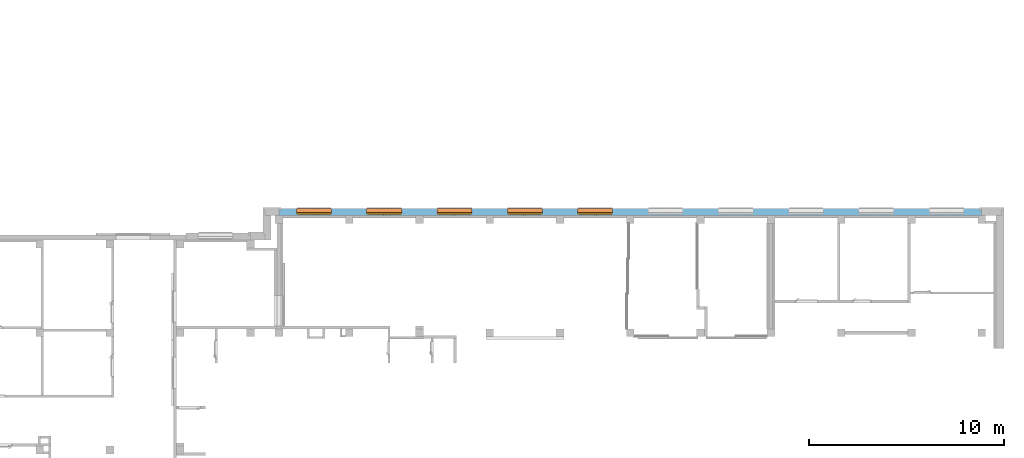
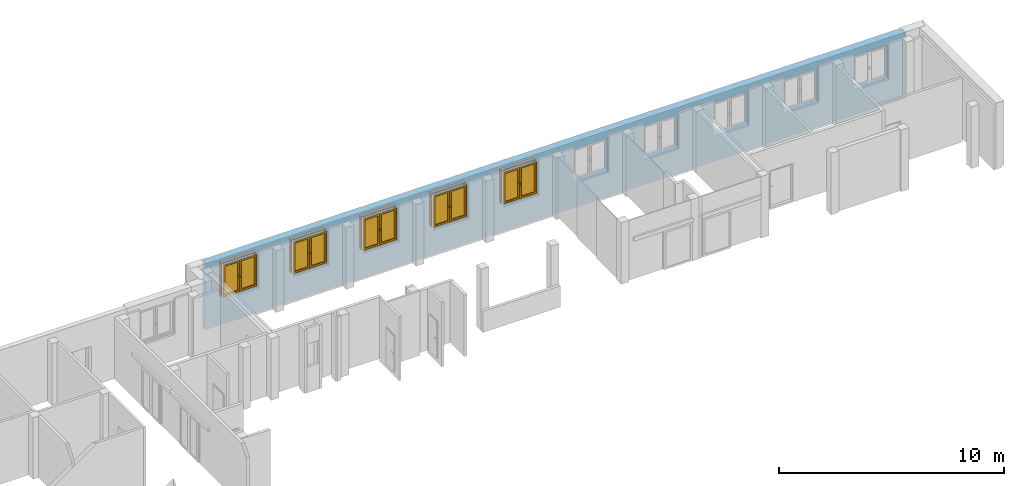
# One storey, part 24 of 37: 5 proxies, 5 windows, 10 openings, plus 1 element that does not belong to this part.
"""IFC4 building model written with IfcOpenShell, lengths in metres."""

from ifc_helpers import new_model, entity, si_unit, converted_unit, derived_unit, frame, origin, origin_with_axes, place, context, subcontext, project, spatial, polyline, outline, extrude, clip, bounded_halfspace, closed_shell, open_shell, faceted_brep, surface_model, source, transform, mapped, material, layer, layer_set, layer_usage, element, fill, save


model = new_model("IFC4")

# Units and contexts
model_context = context("Model", 3, precision=1e-05, world=origin())
body_context = subcontext(model_context, "Body", "Model", "MODEL_VIEW")
ifc_project = project(units=[si_unit("LENGTHUNIT", "METRE"), si_unit("AREAUNIT", "SQUARE_METRE"), si_unit("VOLUMEUNIT", "CUBIC_METRE"), si_unit("MASSUNIT", "GRAM", prefix="KILO"), converted_unit("PLANEANGLEUNIT", "DEGREE", entity("IfcPlaneAngleMeasure", 0.0174532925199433), si_unit("PLANEANGLEUNIT", "RADIAN"), dimensions=[0, 0, 0, 0, 0, 0, 0]), derived_unit("THERMALTRANSMITTANCEUNIT", [(si_unit("POWERUNIT", "WATT"), 1), (si_unit("THERMODYNAMICTEMPERATUREUNIT", "KELVIN"), -1), (si_unit("LENGTHUNIT", "METRE"), -2)]), derived_unit("VOLUMETRICFLOWRATEUNIT", [(si_unit("LENGTHUNIT", "METRE"), 3), (converted_unit("TIMEUNIT", "hour", entity("IfcTimeMeasure", 3600.0), si_unit("TIMEUNIT", "SECOND"), dimensions=[0, 0, 1, 0, 0, 0, 0]), -1), (si_unit("LENGTHUNIT", "METRE"), -1)])], contexts=[model_context])

# Site, building, storey
site_placement = place(None, origin())
site = spatial("IfcSite", under=ifc_project, at=site_placement, Name="3. ASŘ", CompositionType="ELEMENT")
building_placement = place(site_placement, origin())
building = spatial("IfcBuilding", under=site, at=building_placement, Name="Pavilon B", CompositionType="ELEMENT")
storey_placement = place(building_placement, origin())
storey = spatial("IfcBuildingStorey", under=building, at=storey_placement, Name="Půdorys 1.NP", CompositionType="ELEMENT", Elevation=0.0)

# Wall, openings, windows, proxies
ifc_material_1 = material(Name="ZELEZOBETONOVÁ KCE")
ifc_layer_1 = layer(ifc_material_1, 0.250000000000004)
ifc_material_2 = material(Name="MINERÁLNÍ VATA")
ifc_layer_2 = layer(ifc_material_2, 0.119999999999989)
ifc_layer_set = layer_set([ifc_layer_1, ifc_layer_2])
ifc_layer_usage = layer_usage(ifc_layer_set, "AXIS2", "POSITIVE", 0.0)
wall_placement = place(storey_placement, frame((49.1, -15.6, -0.1), z_axis=(0.0, 0.0, 1.0), x_axis=(1.0, 1.01054966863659e-16, 0.0)))
wall = element("IfcWall", 1, at=wall_placement, inside=storey, material=ifc_layer_usage, Name="ZELEZOBETONOVÁ KCE", context=body_context, shape_type="Clipping", body=[
    clip(extrude(outline(polyline([(0.0, 0.0), (36.0, 0.0), (36.0, 0.25), (35.88, 0.25), (35.88, 0.37), (0.12, 0.37), (0.12, 0.25), (2.52637417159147e-17, 0.25), (0.0, 0.0)])), origin_with_axes(), (0.0, 0.0, 1.0), 3.6), bounded_halfspace(frame((18.0, 0.31, 0.1), z_axis=(0.0, 0.0, 1.0), x_axis=(-1.01054966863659e-16, -1.0, 0.0)), True, origin_with_axes(), polyline([(0.12, 0.37), (0.12, 0.25), (35.88, 0.25), (35.88, 0.37), (0.12, 0.37)]))),
])
opening_1_placement = place(wall_placement, frame((27.9, 0.369999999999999, 1.4), z_axis=(0.0, -1.0, 0.0), x_axis=(0.0, 0.0, 1.0)))
element("IfcOpeningElement", 2, at=opening_1_placement, cuts=wall, Name="Okenní otvor", ObjectType="Opening", context=body_context, shape_type="SweptSolid", body=[
    extrude(outline(polyline([(0.0, 1.8), (1.8, 1.8), (1.8, 0.0), (0.0, 0.0), (0.0, 1.8)])), origin_with_axes(), (0.0, 0.0, 1.0), 0.12),
    extrude(outline(polyline([(0.0, 1.8), (1.8, 1.8), (1.8, 0.0), (0.0, 0.0), (0.0, 1.8)])), frame((0.0, 0.0, 0.12), z_axis=(0.0, 0.0, 1.0), x_axis=(1.0, 0.0, 0.0)), (0.0, 0.0, 1.0), 0.25),
])
opening_2_placement = place(wall_placement, frame((31.5, 0.369999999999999, 1.4), z_axis=(0.0, -1.0, 0.0), x_axis=(0.0, 0.0, 1.0)))
element("IfcOpeningElement", 3, at=opening_2_placement, cuts=wall, Name="Okenní otvor", ObjectType="Opening", context=body_context, shape_type="SweptSolid", body=[
    extrude(outline(polyline([(0.0, 1.8), (1.8, 1.8), (1.8, 0.0), (0.0, 0.0), (0.0, 1.8)])), origin_with_axes(), (0.0, 0.0, 1.0), 0.12),
    extrude(outline(polyline([(0.0, 1.8), (1.8, 1.8), (1.8, 0.0), (0.0, 0.0), (0.0, 1.8)])), frame((0.0, 0.0, 0.12), z_axis=(0.0, 0.0, 1.0), x_axis=(1.0, 0.0, 0.0)), (0.0, 0.0, 1.0), 0.25),
])
opening_3_placement = place(wall_placement, frame((35.1, 0.37, 1.4), z_axis=(0.0, -1.0, 0.0), x_axis=(0.0, 0.0, 1.0)))
element("IfcOpeningElement", 4, at=opening_3_placement, cuts=wall, Name="Okenní otvor", ObjectType="Opening", context=body_context, shape_type="SweptSolid", body=[
    extrude(outline(polyline([(0.0, 1.8), (1.8, 1.8), (1.8, 0.0), (0.0, 0.0), (0.0, 1.8)])), origin_with_axes(), (0.0, 0.0, 1.0), 0.12),
    extrude(outline(polyline([(0.0, 1.8), (1.8, 1.8), (1.8, 0.0), (0.0, 0.0), (0.0, 1.8)])), frame((0.0, 0.0, 0.12), z_axis=(0.0, 0.0, 1.0), x_axis=(1.0, 0.0, 0.0)), (0.0, 0.0, 1.0), 0.25),
])
opening_4_placement = place(wall_placement, frame((24.3, 0.369999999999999, 1.4), z_axis=(0.0, -1.0, 0.0), x_axis=(0.0, 0.0, 1.0)))
element("IfcOpeningElement", 5, at=opening_4_placement, cuts=wall, Name="Okenní otvor", ObjectType="Opening", context=body_context, shape_type="SweptSolid", body=[
    extrude(outline(polyline([(0.0, 1.8), (1.8, 1.8), (1.8, 0.0), (0.0, 0.0), (0.0, 1.8)])), origin_with_axes(), (0.0, 0.0, 1.0), 0.12),
    extrude(outline(polyline([(0.0, 1.8), (1.8, 1.8), (1.8, 0.0), (0.0, 0.0), (0.0, 1.8)])), frame((0.0, 0.0, 0.12), z_axis=(0.0, 0.0, 1.0), x_axis=(1.0, 0.0, 0.0)), (0.0, 0.0, 1.0), 0.25),
])
opening_5_placement = place(wall_placement, frame((20.7, 0.37, 1.4), z_axis=(0.0, -1.0, 0.0), x_axis=(0.0, 0.0, 1.0)))
element("IfcOpeningElement", 6, at=opening_5_placement, cuts=wall, Name="Okenní otvor", ObjectType="Opening", context=body_context, shape_type="SweptSolid", body=[
    extrude(outline(polyline([(0.0, 1.8), (1.8, 1.8), (1.8, 0.0), (0.0, 0.0), (0.0, 1.8)])), origin_with_axes(), (0.0, 0.0, 1.0), 0.12),
    extrude(outline(polyline([(0.0, 1.8), (1.8, 1.8), (1.8, 0.0), (0.0, 0.0), (0.0, 1.8)])), frame((0.0, 0.0, 0.12), z_axis=(0.0, 0.0, 1.0), x_axis=(1.0, 0.0, 0.0)), (0.0, 0.0, 1.0), 0.25),
])
opening_6_placement = place(wall_placement, frame((17.1, 0.37, 1.4), z_axis=(0.0, -1.0, 0.0), x_axis=(0.0, 0.0, 1.0)))
opening_6 = element("IfcOpeningElement", 7, at=opening_6_placement, cuts=wall, Name="Okenní otvor", ObjectType="Opening", context=body_context, shape_type="SweptSolid", body=[
    extrude(outline(polyline([(0.0, 1.8), (1.8, 1.8), (1.8, 0.0), (0.0, 0.0), (0.0, 1.8)])), origin_with_axes(), (0.0, 0.0, 1.0), 0.12),
    extrude(outline(polyline([(0.0, 1.8), (1.8, 1.8), (1.8, 0.0), (0.0, 0.0), (0.0, 1.8)])), frame((0.0, 0.0, 0.12), z_axis=(0.0, 0.0, 1.0), x_axis=(1.0, 0.0, 0.0)), (0.0, 0.0, 1.0), 0.25),
])
opening_7_placement = place(wall_placement, frame((13.5, 0.369999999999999, 1.4), z_axis=(0.0, -1.0, 0.0), x_axis=(0.0, 0.0, 1.0)))
opening_7 = element("IfcOpeningElement", 8, at=opening_7_placement, cuts=wall, Name="Okenní otvor", ObjectType="Opening", context=body_context, shape_type="SweptSolid", body=[
    extrude(outline(polyline([(0.0, 1.8), (1.8, 1.8), (1.8, 0.0), (0.0, 0.0), (0.0, 1.8)])), origin_with_axes(), (0.0, 0.0, 1.0), 0.12),
    extrude(outline(polyline([(0.0, 1.8), (1.8, 1.8), (1.8, 0.0), (0.0, 0.0), (0.0, 1.8)])), frame((0.0, 0.0, 0.12), z_axis=(0.0, 0.0, 1.0), x_axis=(1.0, 0.0, 0.0)), (0.0, 0.0, 1.0), 0.25),
])
opening_8_placement = place(wall_placement, frame((9.9, 0.369999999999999, 1.4), z_axis=(0.0, -1.0, 0.0), x_axis=(0.0, 0.0, 1.0)))
opening_8 = element("IfcOpeningElement", 9, at=opening_8_placement, cuts=wall, Name="Okenní otvor", ObjectType="Opening", context=body_context, shape_type="SweptSolid", body=[
    extrude(outline(polyline([(0.0, 1.8), (1.8, 1.8), (1.8, 0.0), (0.0, 0.0), (0.0, 1.8)])), origin_with_axes(), (0.0, 0.0, 1.0), 0.12),
    extrude(outline(polyline([(0.0, 1.8), (1.8, 1.8), (1.8, 0.0), (0.0, 0.0), (0.0, 1.8)])), frame((0.0, 0.0, 0.12), z_axis=(0.0, 0.0, 1.0), x_axis=(1.0, 0.0, 0.0)), (0.0, 0.0, 1.0), 0.25),
])
opening_9_placement = place(wall_placement, frame((6.3, 0.369999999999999, 1.4), z_axis=(0.0, -1.0, 0.0), x_axis=(0.0, 0.0, 1.0)))
opening_9 = element("IfcOpeningElement", 10, at=opening_9_placement, cuts=wall, Name="Okenní otvor", ObjectType="Opening", context=body_context, shape_type="SweptSolid", body=[
    extrude(outline(polyline([(0.0, 1.8), (1.8, 1.8), (1.8, 0.0), (0.0, 0.0), (0.0, 1.8)])), origin_with_axes(), (0.0, 0.0, 1.0), 0.12),
    extrude(outline(polyline([(0.0, 1.8), (1.8, 1.8), (1.8, 0.0), (0.0, 0.0), (0.0, 1.8)])), frame((0.0, 0.0, 0.12), z_axis=(0.0, 0.0, 1.0), x_axis=(1.0, 0.0, 0.0)), (0.0, 0.0, 1.0), 0.25),
])
opening_10_placement = place(wall_placement, frame((2.7, 0.37, 1.4), z_axis=(0.0, -1.0, 0.0), x_axis=(0.0, 0.0, 1.0)))
opening_10 = element("IfcOpeningElement", 11, at=opening_10_placement, cuts=wall, Name="Okenní otvor", ObjectType="Opening", context=body_context, shape_type="SweptSolid", body=[
    extrude(outline(polyline([(0.0, 1.8), (1.8, 1.8), (1.8, 0.0), (0.0, 0.0), (0.0, 1.8)])), origin_with_axes(), (0.0, 0.0, 1.0), 0.12),
    extrude(outline(polyline([(0.0, 1.8), (1.8, 1.8), (1.8, 0.0), (0.0, 0.0), (0.0, 1.8)])), frame((0.0, 0.0, 0.12), z_axis=(0.0, 0.0, 1.0), x_axis=(1.0, 0.0, 0.0)), (0.0, 0.0, 1.0), 0.25),
])
shared_shape = source(origin_with_axes(), body_context, "Body", "SurfaceModel", [
    surface_model("IfcShellBasedSurfaceModel", [(0.0, 0.182, 1.8), (0.0, 0.182, -5.63337527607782e-18), (0.08, 0.182, -5.63337527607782e-18), (0.08, 0.182, 1.8), (0.0, 0.0899999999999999, 5.63337527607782e-18), (0.0, 0.0900000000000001, 1.8), (0.08, 0.0900000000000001, 1.8), (0.08, 0.0899999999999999, 5.63337527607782e-18)], [closed_shell([[[0, 1, 2, 3]], [[4, 5, 6, 7]], [[1, 0, 5, 4]], [[2, 1, 4, 7]], [[3, 2, 7, 6]], [[0, 3, 6, 5]]], orient=[[False], [False], [False], [False], [False], [False]])]),
    surface_model("IfcShellBasedSurfaceModel", [(1.72, 0.182, 1.8), (1.72, 0.182, -5.63337527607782e-18), (1.8, 0.182, -5.63337527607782e-18), (1.8, 0.182, 1.8), (1.72, 0.0899999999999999, 5.63337527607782e-18), (1.72, 0.0900000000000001, 1.8), (1.8, 0.0900000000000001, 1.8), (1.8, 0.0899999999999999, 5.63337527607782e-18)], [closed_shell([[[0, 1, 2, 3]], [[4, 5, 6, 7]], [[1, 0, 5, 4]], [[2, 1, 4, 7]], [[3, 2, 7, 6]], [[0, 3, 6, 5]]], orient=[[False], [False], [False], [False], [False], [False]])]),
    surface_model("IfcShellBasedSurfaceModel", [(0.08, 0.182, 0.08), (0.08, 0.182, -5.63337527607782e-18), (1.72, 0.182, -5.63337527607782e-18), (1.72, 0.182, 0.08), (0.08, 0.0899999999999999, 5.63337527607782e-18), (0.08, 0.0899999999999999, 0.08), (1.72, 0.0899999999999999, 0.08), (1.72, 0.0899999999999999, 5.63337527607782e-18)], [closed_shell([[[0, 1, 2, 3]], [[4, 5, 6, 7]], [[1, 0, 5, 4]], [[2, 1, 4, 7]], [[3, 2, 7, 6]], [[0, 3, 6, 5]]], orient=[[False], [False], [False], [False], [False], [False]])]),
    surface_model("IfcShellBasedSurfaceModel", [(0.08, 0.182, 1.8), (0.08, 0.182, 1.72), (1.72, 0.182, 1.72), (1.72, 0.182, 1.8), (0.08, 0.0900000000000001, 1.72), (0.08, 0.0900000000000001, 1.8), (1.72, 0.0900000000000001, 1.8), (1.72, 0.0900000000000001, 1.72)], [closed_shell([[[0, 1, 2, 3]], [[4, 5, 6, 7]], [[1, 0, 5, 4]], [[2, 1, 4, 7]], [[3, 2, 7, 6]], [[0, 3, 6, 5]]], orient=[[False], [False], [False], [False], [False], [False]])]),
    surface_model("IfcShellBasedSurfaceModel", [(0.86, 0.182, 1.72), (0.86, 0.182, 0.08), (0.94, 0.182, 0.08), (0.94, 0.182, 1.72), (0.86, 0.0899999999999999, 0.08), (0.86, 0.0900000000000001, 1.72), (0.94, 0.0900000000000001, 1.72), (0.94, 0.0899999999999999, 0.08)], [closed_shell([[[0, 1, 2, 3]], [[4, 5, 6, 7]], [[1, 0, 5, 4]], [[2, 1, 4, 7]], [[3, 2, 7, 6]], [[0, 3, 6, 5]]], orient=[[False], [False], [False], [False], [False], [False]])]),
    surface_model("IfcShellBasedSurfaceModel", [(0.05, 0.145, 1.75), (0.05, 0.145, 0.05), (0.13, 0.145, 0.05), (0.13, 0.145, 1.75), (0.05, 0.0599999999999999, 0.05), (0.05, 0.0600000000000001, 1.75), (0.13, 0.0600000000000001, 1.75), (0.13, 0.0599999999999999, 0.05)], [closed_shell([[[0, 1, 2, 3]], [[4, 5, 6, 7]], [[1, 0, 5, 4]], [[2, 1, 4, 7]], [[3, 2, 7, 6]], [[0, 3, 6, 5]]], orient=[[False], [False], [False], [False], [False], [False]])]),
    surface_model("IfcShellBasedSurfaceModel", [(0.81, 0.145, 1.75), (0.81, 0.145, 0.05), (0.89, 0.145, 0.05), (0.89, 0.145, 1.75), (0.81, 0.0599999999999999, 0.05), (0.81, 0.0600000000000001, 1.75), (0.89, 0.0600000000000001, 1.75), (0.89, 0.0599999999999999, 0.05)], [closed_shell([[[0, 1, 2, 3]], [[4, 5, 6, 7]], [[1, 0, 5, 4]], [[2, 1, 4, 7]], [[3, 2, 7, 6]], [[0, 3, 6, 5]]], orient=[[False], [False], [False], [False], [False], [False]])]),
    surface_model("IfcShellBasedSurfaceModel", [(0.13, 0.145, 0.13), (0.13, 0.145, 0.05), (0.81, 0.145, 0.05), (0.81, 0.145, 0.13), (0.13, 0.0599999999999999, 0.05), (0.13, 0.0599999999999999, 0.13), (0.81, 0.0599999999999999, 0.13), (0.81, 0.0599999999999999, 0.05)], [closed_shell([[[0, 1, 2, 3]], [[4, 5, 6, 7]], [[1, 0, 5, 4]], [[2, 1, 4, 7]], [[3, 2, 7, 6]], [[0, 3, 6, 5]]], orient=[[False], [False], [False], [False], [False], [False]])]),
    surface_model("IfcShellBasedSurfaceModel", [(0.13, 0.145, 1.75), (0.13, 0.145, 1.67), (0.81, 0.145, 1.67), (0.81, 0.145, 1.75), (0.13, 0.0600000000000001, 1.67), (0.13, 0.0600000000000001, 1.75), (0.81, 0.0600000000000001, 1.75), (0.81, 0.0600000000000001, 1.67)], [closed_shell([[[0, 1, 2, 3]], [[4, 5, 6, 7]], [[1, 0, 5, 4]], [[2, 1, 4, 7]], [[3, 2, 7, 6]], [[0, 3, 6, 5]]], orient=[[False], [False], [False], [False], [False], [False]])]),
    surface_model("IfcShellBasedSurfaceModel", [(0.8375, 0.06, 0.92), (0.8375, 0.06, 0.88), (0.8625, 0.06, 0.88), (0.8625, 0.06, 0.92), (0.8375, 0.05, 0.88), (0.8375, 0.05, 0.92), (0.8625, 0.05, 0.92), (0.8625, 0.05, 0.88)], [closed_shell([[[0, 1, 2, 3]], [[4, 5, 6, 7]], [[1, 0, 5, 4]], [[2, 1, 4, 7]], [[3, 2, 7, 6]], [[0, 3, 6, 5]]], orient=[[False], [False], [False], [False], [False], [False]])]),
    surface_model("IfcShellBasedSurfaceModel", [(0.86, 0.05, 0.9), (0.858660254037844, 0.05, 0.905), (0.855, 0.05, 0.908660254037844), (0.85, 0.05, 0.91), (0.845, 0.05, 0.908660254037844), (0.841339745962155, 0.05, 0.905), (0.84, 0.05, 0.9), (0.841339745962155, 0.05, 0.895), (0.845, 0.05, 0.891339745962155), (0.85, 0.05, 0.89), (0.855, 0.05, 0.891339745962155), (0.858660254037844, 0.05, 0.895), (0.86, 0.01, 0.9), (0.858660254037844, 0.00500000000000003, 0.905), (0.855, 0.00133974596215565, 0.908660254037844), (0.85, 2.8421709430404e-17, 0.91), (0.845, 0.00133974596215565, 0.908660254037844), (0.841339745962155, 0.00500000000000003, 0.905), (0.84, 0.01, 0.9), (0.841339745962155, 0.015, 0.895), (0.845, 0.0186602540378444, 0.891339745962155), (0.85, 0.02, 0.89), (0.855, 0.0186602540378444, 0.891339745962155), (0.858660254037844, 0.015, 0.895), (0.86, 0.01, 0.785), (0.858660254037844, 0.005, 0.785), (0.855, 0.00133974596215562, 0.785), (0.85, 0.0, 0.785), (0.845, 0.00133974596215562, 0.785), (0.841339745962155, 0.005, 0.785), (0.84, 0.01, 0.785), (0.841339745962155, 0.015, 0.785), (0.845, 0.0186602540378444, 0.785), (0.85, 0.02, 0.785), (0.855, 0.0186602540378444, 0.785), (0.858660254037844, 0.015, 0.785)], [open_shell([[[0, 1, 2, 3, 4, 5, 6, 7, 8, 9, 10, 11]], [[0, 12, 13, 1]], [[1, 13, 14, 2]], [[2, 14, 15, 3]], [[3, 15, 16, 4]], [[4, 16, 17, 5]], [[5, 17, 18, 6]], [[6, 18, 19, 7]], [[7, 19, 20, 8]], [[8, 20, 21, 9]], [[9, 21, 22, 10]], [[10, 22, 23, 11]], [[11, 23, 12, 0]], [[12, 24, 25, 13]], [[13, 25, 26, 14]], [[14, 26, 27, 15]], [[15, 27, 28, 16]], [[16, 28, 29, 17]], [[17, 29, 30, 18]], [[18, 30, 31, 19]], [[19, 31, 32, 20]], [[20, 32, 33, 21]], [[21, 33, 34, 22]], [[22, 34, 35, 23]], [[23, 35, 24, 12]]], orient=[[False], [False], [False], [False], [False], [False], [False], [False], [False], [False], [False], [False], [False], [False], [False], [False], [False], [False], [False], [False], [False], [False], [False], [False], [False]])]),
    surface_model("IfcShellBasedSurfaceModel", [(0.91, 0.145, 1.75), (0.91, 0.145, 0.05), (0.99, 0.145, 0.05), (0.99, 0.145, 1.75), (0.91, 0.0599999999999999, 0.05), (0.91, 0.0600000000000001, 1.75), (0.99, 0.0600000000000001, 1.75), (0.99, 0.0599999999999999, 0.05)], [closed_shell([[[0, 1, 2, 3]], [[4, 5, 6, 7]], [[1, 0, 5, 4]], [[2, 1, 4, 7]], [[3, 2, 7, 6]], [[0, 3, 6, 5]]], orient=[[False], [False], [False], [False], [False], [False]])]),
    surface_model("IfcShellBasedSurfaceModel", [(1.67, 0.145, 1.75), (1.67, 0.145, 0.05), (1.75, 0.145, 0.05), (1.75, 0.145, 1.75), (1.67, 0.0599999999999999, 0.05), (1.67, 0.0600000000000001, 1.75), (1.75, 0.0600000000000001, 1.75), (1.75, 0.0599999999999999, 0.05)], [closed_shell([[[0, 1, 2, 3]], [[4, 5, 6, 7]], [[1, 0, 5, 4]], [[2, 1, 4, 7]], [[3, 2, 7, 6]], [[0, 3, 6, 5]]], orient=[[False], [False], [False], [False], [False], [False]])]),
    surface_model("IfcShellBasedSurfaceModel", [(0.99, 0.145, 0.13), (0.99, 0.145, 0.05), (1.67, 0.145, 0.05), (1.67, 0.145, 0.13), (0.99, 0.0599999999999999, 0.05), (0.99, 0.0599999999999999, 0.13), (1.67, 0.0599999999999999, 0.13), (1.67, 0.0599999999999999, 0.05)], [closed_shell([[[0, 1, 2, 3]], [[4, 5, 6, 7]], [[1, 0, 5, 4]], [[2, 1, 4, 7]], [[3, 2, 7, 6]], [[0, 3, 6, 5]]], orient=[[False], [False], [False], [False], [False], [False]])]),
    surface_model("IfcShellBasedSurfaceModel", [(0.99, 0.145, 1.75), (0.99, 0.145, 1.67), (1.67, 0.145, 1.67), (1.67, 0.145, 1.75), (0.99, 0.0600000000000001, 1.67), (0.99, 0.0600000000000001, 1.75), (1.67, 0.0600000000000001, 1.75), (1.67, 0.0600000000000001, 1.67)], [closed_shell([[[0, 1, 2, 3]], [[4, 5, 6, 7]], [[1, 0, 5, 4]], [[2, 1, 4, 7]], [[3, 2, 7, 6]], [[0, 3, 6, 5]]], orient=[[False], [False], [False], [False], [False], [False]])]),
    surface_model("IfcShellBasedSurfaceModel", [(0.9375, 0.06, 0.92), (0.9375, 0.06, 0.88), (0.9625, 0.06, 0.88), (0.9625, 0.06, 0.92), (0.9375, 0.05, 0.88), (0.9375, 0.05, 0.92), (0.9625, 0.05, 0.92), (0.9625, 0.05, 0.88)], [closed_shell([[[0, 1, 2, 3]], [[4, 5, 6, 7]], [[1, 0, 5, 4]], [[2, 1, 4, 7]], [[3, 2, 7, 6]], [[0, 3, 6, 5]]], orient=[[False], [False], [False], [False], [False], [False]])]),
    surface_model("IfcShellBasedSurfaceModel", [(0.96, 0.05, 0.9), (0.958660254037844, 0.05, 0.905), (0.955, 0.05, 0.908660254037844), (0.95, 0.05, 0.91), (0.945, 0.05, 0.908660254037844), (0.941339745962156, 0.05, 0.905), (0.94, 0.05, 0.9), (0.941339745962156, 0.05, 0.895), (0.945, 0.05, 0.891339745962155), (0.95, 0.05, 0.89), (0.955, 0.05, 0.891339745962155), (0.958660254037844, 0.05, 0.895), (0.96, 0.01, 0.9), (0.958660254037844, 0.00500000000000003, 0.905), (0.955, 0.00133974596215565, 0.908660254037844), (0.95, 2.8421709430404e-17, 0.91), (0.945, 0.00133974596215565, 0.908660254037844), (0.941339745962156, 0.00500000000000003, 0.905), (0.94, 0.01, 0.9), (0.941339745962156, 0.015, 0.895), (0.945, 0.0186602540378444, 0.891339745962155), (0.95, 0.02, 0.89), (0.955, 0.0186602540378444, 0.891339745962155), (0.958660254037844, 0.015, 0.895), (0.96, 0.01, 0.785), (0.958660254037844, 0.005, 0.785), (0.955, 0.00133974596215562, 0.785), (0.95, 0.0, 0.785), (0.945, 0.00133974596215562, 0.785), (0.941339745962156, 0.005, 0.785), (0.94, 0.01, 0.785), (0.941339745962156, 0.015, 0.785), (0.945, 0.0186602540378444, 0.785), (0.95, 0.02, 0.785), (0.955, 0.0186602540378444, 0.785), (0.958660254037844, 0.015, 0.785)], [open_shell([[[0, 1, 2, 3, 4, 5, 6, 7, 8, 9, 10, 11]], [[0, 12, 13, 1]], [[1, 13, 14, 2]], [[2, 14, 15, 3]], [[3, 15, 16, 4]], [[4, 16, 17, 5]], [[5, 17, 18, 6]], [[6, 18, 19, 7]], [[7, 19, 20, 8]], [[8, 20, 21, 9]], [[9, 21, 22, 10]], [[10, 22, 23, 11]], [[11, 23, 12, 0]], [[12, 24, 25, 13]], [[13, 25, 26, 14]], [[14, 26, 27, 15]], [[15, 27, 28, 16]], [[16, 28, 29, 17]], [[17, 29, 30, 18]], [[18, 30, 31, 19]], [[19, 31, 32, 20]], [[20, 32, 33, 21]], [[21, 33, 34, 22]], [[22, 34, 35, 23]], [[23, 35, 24, 12]]], orient=[[False], [False], [False], [False], [False], [False], [False], [False], [False], [False], [False], [False], [False], [False], [False], [False], [False], [False], [False], [False], [False], [False], [False], [False], [False]])]),
    surface_model("IfcShellBasedSurfaceModel", [(0.13, 0.1025, 0.13), (0.81, 0.1025, 0.13), (0.81, 0.1025, 1.67), (0.13, 0.1025, 1.67)], [open_shell([[[0, 1, 2, 3]]], orient=[[False]])]),
    surface_model("IfcShellBasedSurfaceModel", [(0.99, 0.1025, 0.13), (1.67, 0.1025, 0.13), (1.67, 0.1025, 1.67), (0.99, 0.1025, 1.67)], [open_shell([[[0, 1, 2, 3]]], orient=[[False]])]),
])
window_1_placement = place(opening_6_placement, frame((0.0, 0.0, 0.382), z_axis=(1.0, 0.0, 0.0), x_axis=(0.0, 1.0, -3.45984326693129e-16)))
window_1 = element("IfcWindow", 12, at=window_1_placement, inside=storey, Name="O06", OverallHeight=1.8, OverallWidth=1.8, PartitioningType="USERDEFINED", PredefinedType="WINDOW", context=body_context, shape_type="MappedRepresentation", body=[
    mapped(shared_shape, transform((0.0, 0.0, 0.0), x_axis=(1.0, 0.0, 0.0), y_axis=(0.0, -1.0, 0.0), z_axis=(0.0, 0.0, 1.0), scale=1.0)),
])
fill(opening_6, window_1)
window_2_placement = place(opening_7_placement, frame((0.0, 0.0, 0.382), z_axis=(1.0, 0.0, 0.0), x_axis=(0.0, 1.0, -3.45984326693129e-16)))
window_2 = element("IfcWindow", 13, at=window_2_placement, inside=storey, Name="O06", OverallHeight=1.8, OverallWidth=1.8, PartitioningType="USERDEFINED", PredefinedType="WINDOW", context=body_context, shape_type="MappedRepresentation", body=[
    mapped(shared_shape, transform((0.0, 0.0, 0.0), x_axis=(1.0, 0.0, 0.0), y_axis=(0.0, -1.0, 0.0), z_axis=(0.0, 0.0, 1.0), scale=1.0)),
])
fill(opening_7, window_2)
window_3_placement = place(opening_8_placement, frame((0.0, 0.0, 0.382), z_axis=(1.0, 0.0, 0.0), x_axis=(0.0, 1.0, -3.45984326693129e-16)))
window_3 = element("IfcWindow", 14, at=window_3_placement, inside=storey, Name="O06", OverallHeight=1.8, OverallWidth=1.8, PartitioningType="USERDEFINED", PredefinedType="WINDOW", context=body_context, shape_type="MappedRepresentation", body=[
    mapped(shared_shape, transform((0.0, 0.0, 0.0), x_axis=(1.0, 0.0, 0.0), y_axis=(0.0, -1.0, 0.0), z_axis=(0.0, 0.0, 1.0), scale=1.0)),
])
fill(opening_8, window_3)
window_4_placement = place(opening_9_placement, frame((0.0, 0.0, 0.382), z_axis=(1.0, 0.0, 0.0), x_axis=(0.0, 1.0, -3.45984326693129e-16)))
window_4 = element("IfcWindow", 15, at=window_4_placement, inside=storey, Name="O06", OverallHeight=1.8, OverallWidth=1.8, PartitioningType="USERDEFINED", PredefinedType="WINDOW", context=body_context, shape_type="MappedRepresentation", body=[
    mapped(shared_shape, transform((0.0, 0.0, 0.0), x_axis=(1.0, 0.0, 0.0), y_axis=(0.0, -1.0, 0.0), z_axis=(0.0, 0.0, 1.0), scale=1.0)),
])
fill(opening_9, window_4)
window_5_placement = place(opening_10_placement, frame((0.0, 0.0, 0.382), z_axis=(1.0, 0.0, 0.0), x_axis=(0.0, 1.0, -3.45984326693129e-16)))
window_5 = element("IfcWindow", 16, at=window_5_placement, inside=storey, Name="O06", OverallHeight=1.8, OverallWidth=1.8, PartitioningType="USERDEFINED", PredefinedType="WINDOW", context=body_context, shape_type="MappedRepresentation", body=[
    mapped(shared_shape, transform((0.0, 0.0, 0.0), x_axis=(1.0, 0.0, 0.0), y_axis=(0.0, -1.0, 0.0), z_axis=(0.0, 0.0, 1.0), scale=1.0)),
])
fill(opening_10, window_5)
ifc_material_3 = material(Name="MINERÁLNÍ VATA")
proxy_1_placement = place(opening_6_placement, frame((0.0, 1.8, 0.2)))
proxy_1 = element("IfcBuildingElementProxy", 17, at=proxy_1_placement, inside=storey, material=ifc_material_3, context=body_context, shape_type="Brep", body=[
    faceted_brep([(0.0, -1.8, -0.2), (0.0, -1.8, 1.81898940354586e-16), (1.8, -1.8, 1.81898940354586e-16), (1.8, -1.8, -0.2), (0.0, -1.76, 1.77856741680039e-16), (0.0, -1.76, -0.2), (1.76, -1.76, -0.2), (1.76, -1.76, 1.77856741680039e-16), (1.8, 0.0, 0.0), (1.8, -2.02109933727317e-17, -0.2), (0.0, -2.02109933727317e-17, -0.2), (0.0, -0.0400000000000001, -0.2), (1.76, -0.0400000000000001, -0.2), (1.76, -0.0400000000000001, 4.04219867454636e-18), (0.0, -0.0400000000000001, 4.04219867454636e-18), (0.0, 0.0, 0.0)], [[[0, 1, 2, 3]], [[4, 5, 6, 7]], [[0, 5, 4, 1]], [[3, 2, 8, 9]], [[6, 5, 0, 3, 9, 10, 11, 12]], [[13, 14, 15, 8, 2, 1, 4, 7]], [[7, 6, 12, 13]], [[11, 14, 13, 12]], [[15, 10, 9, 8]], [[11, 10, 15, 14]]], orient=[[False], [False], [False], [False], [False], [False], [False], [False], [False], [False]]),
])
fill(opening_6, proxy_1)
ifc_material_4 = material(Name="MINERÁLNÍ VATA")
proxy_2_placement = place(opening_7_placement, frame((0.0, 1.8, 0.2)))
proxy_2 = element("IfcBuildingElementProxy", 18, at=proxy_2_placement, inside=storey, material=ifc_material_4, context=body_context, shape_type="Brep", body=[
    faceted_brep([(0.0, -1.8, -0.2), (0.0, -1.8, 1.81898940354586e-16), (1.8, -1.8, 1.81898940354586e-16), (1.8, -1.8, -0.2), (1.8, 0.0, 0.0), (1.8, -2.02109933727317e-17, -0.2), (0.0, -1.76, -0.2), (0.0, -1.76, 1.77856741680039e-16), (0.0, -2.02109933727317e-17, -0.2), (0.0, -0.0400000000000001, -0.2), (1.76, -0.0400000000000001, -0.2), (1.76, -1.76, -0.2), (1.76, -1.76, 1.77856741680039e-16), (1.76, -0.0400000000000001, 4.04219867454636e-18), (0.0, -0.0400000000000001, 4.04219867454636e-18), (0.0, 0.0, 0.0)], [[[0, 1, 2, 3]], [[3, 2, 4, 5]], [[0, 6, 7, 1]], [[6, 0, 3, 5, 8, 9, 10, 11]], [[1, 7, 12, 13, 14, 15, 4, 2]], [[7, 6, 11, 12]], [[15, 8, 5, 4]], [[9, 8, 15, 14]], [[9, 14, 13, 10]], [[12, 11, 10, 13]]], orient=[[False], [False], [False], [False], [False], [False], [False], [False], [False], [False]]),
])
fill(opening_7, proxy_2)
ifc_material_5 = material(Name="MINERÁLNÍ VATA")
proxy_3_placement = place(opening_8_placement, frame((0.0, 1.8, 0.2)))
proxy_3 = element("IfcBuildingElementProxy", 19, at=proxy_3_placement, inside=storey, material=ifc_material_5, context=body_context, shape_type="Brep", body=[
    faceted_brep([(0.0, -1.8, -0.2), (0.0, -1.8, 1.81898940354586e-16), (1.8, -1.8, 1.81898940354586e-16), (1.8, -1.8, -0.2), (0.0, -1.76, 1.77856741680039e-16), (0.0, -1.76, -0.2), (1.76, -1.76, -0.2), (1.76, -1.76, 1.77856741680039e-16), (1.8, 0.0, 0.0), (1.8, -2.02109933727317e-17, -0.2), (0.0, -2.02109933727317e-17, -0.2), (0.0, -0.0400000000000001, -0.2), (1.76, -0.0400000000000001, -0.2), (1.76, -0.0400000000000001, 4.04219867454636e-18), (0.0, -0.0400000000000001, 4.04219867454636e-18), (0.0, 0.0, 0.0)], [[[0, 1, 2, 3]], [[4, 5, 6, 7]], [[0, 5, 4, 1]], [[3, 2, 8, 9]], [[6, 5, 0, 3, 9, 10, 11, 12]], [[13, 14, 15, 8, 2, 1, 4, 7]], [[7, 6, 12, 13]], [[11, 14, 13, 12]], [[15, 10, 9, 8]], [[11, 10, 15, 14]]], orient=[[False], [False], [False], [False], [False], [False], [False], [False], [False], [False]]),
])
fill(opening_8, proxy_3)
ifc_material_6 = material(Name="MINERÁLNÍ VATA")
proxy_4_placement = place(opening_9_placement, frame((0.0, 1.8, 0.2)))
proxy_4 = element("IfcBuildingElementProxy", 20, at=proxy_4_placement, inside=storey, material=ifc_material_6, context=body_context, shape_type="Brep", body=[
    faceted_brep([(0.0, -1.8, -0.2), (0.0, -1.8, 1.81898940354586e-16), (1.8, -1.8, 1.81898940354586e-16), (1.8, -1.8, -0.2), (1.8, 0.0, 0.0), (1.8, -2.02109933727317e-17, -0.2), (0.0, -1.76, -0.2), (0.0, -1.76, 1.77856741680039e-16), (0.0, -2.02109933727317e-17, -0.2), (0.0, -0.0400000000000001, -0.2), (1.76, -0.0400000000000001, -0.2), (1.76, -1.76, -0.2), (1.76, -1.76, 1.77856741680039e-16), (1.76, -0.0400000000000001, 4.04219867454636e-18), (0.0, -0.0400000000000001, 4.04219867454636e-18), (0.0, 0.0, 0.0)], [[[0, 1, 2, 3]], [[3, 2, 4, 5]], [[0, 6, 7, 1]], [[6, 0, 3, 5, 8, 9, 10, 11]], [[1, 7, 12, 13, 14, 15, 4, 2]], [[7, 6, 11, 12]], [[15, 8, 5, 4]], [[9, 8, 15, 14]], [[9, 14, 13, 10]], [[12, 11, 10, 13]]], orient=[[False], [False], [False], [False], [False], [False], [False], [False], [False], [False]]),
])
fill(opening_9, proxy_4)
ifc_material_7 = material(Name="MINERÁLNÍ VATA")
proxy_5_placement = place(opening_10_placement, frame((0.0, 1.8, 0.2)))
proxy_5 = element("IfcBuildingElementProxy", 21, at=proxy_5_placement, inside=storey, material=ifc_material_7, context=body_context, shape_type="Brep", body=[
    faceted_brep([(0.0, -1.8, -0.2), (0.0, -1.8, 1.81898940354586e-16), (1.8, -1.8, 1.81898940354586e-16), (1.8, -1.8, -0.2), (0.0, -1.76, 1.77856741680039e-16), (0.0, -1.76, -0.2), (1.76, -1.76, -0.2), (1.76, -1.76, 1.77856741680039e-16), (1.8, 0.0, 0.0), (1.8, -2.02109933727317e-17, -0.2), (0.0, -2.02109933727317e-17, -0.2), (0.0, -0.0400000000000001, -0.2), (1.76, -0.0400000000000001, -0.2), (1.76, -0.0400000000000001, 4.04219867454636e-18), (0.0, -0.0400000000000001, 4.04219867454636e-18), (0.0, 0.0, 0.0)], [[[0, 1, 2, 3]], [[4, 5, 6, 7]], [[0, 5, 4, 1]], [[3, 2, 8, 9]], [[6, 5, 0, 3, 9, 10, 11, 12]], [[13, 14, 15, 8, 2, 1, 4, 7]], [[7, 6, 12, 13]], [[11, 14, 13, 12]], [[15, 10, 9, 8]], [[11, 10, 15, 14]]], orient=[[False], [False], [False], [False], [False], [False], [False], [False], [False], [False]]),
])
fill(opening_10, proxy_5)

save(model, "model.ifc")
